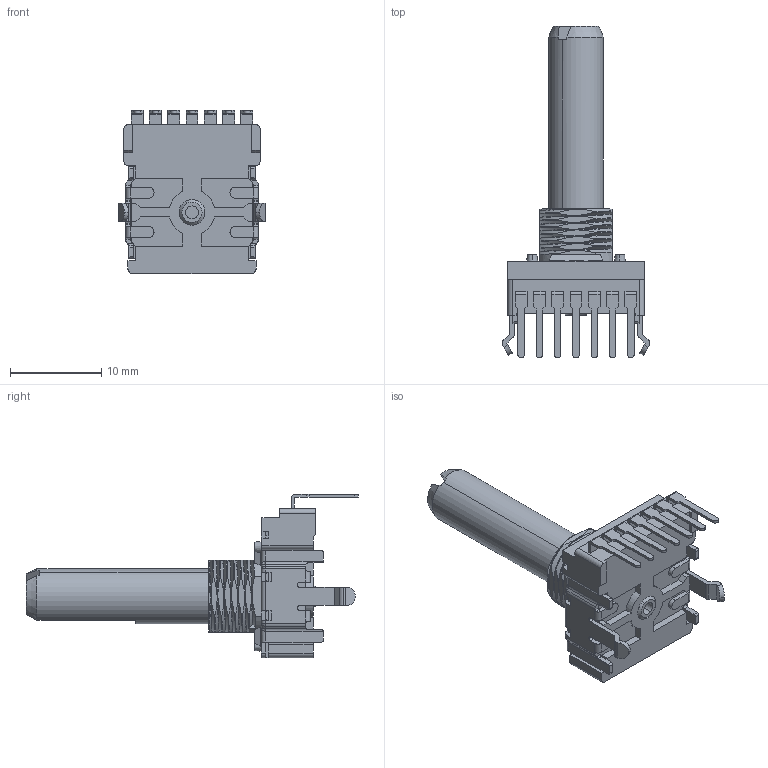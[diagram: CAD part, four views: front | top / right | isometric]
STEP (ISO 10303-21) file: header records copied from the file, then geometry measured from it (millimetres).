
FILE_DESCRIPTION (( 'STEP AP203' ), '1' );
FILE_NAME ('P140KH1-F25.STEP', '2026-09-15T18:39:35', ( '' ), ( '' ), 'SwSTEP 2.0', 'SolidWorks 2026', '' );
FILE_SCHEMA (( 'CONFIG_CONTROL_DESIGN' ));
Length unit declared in the file: millimetre
Products named in the file (8): 1-F25; V-terminal; bushing; Housing; spring_plate; P140KH1-F25; KH-housing; KH1 bracket
Assembly tree (13 placements, depth 3):
  P140KH1-F25
    KH-housing
      Housing
      V-terminal  x7
    1-F25
    spring_plate
    bushing
    KH1 bracket
Bounding box: 16.1 x 36.3 x 17.85 mm (x, y, z)
Volume: 1779.5 mm3; surface area: 3212.7 mm2
Topology: 12 solids, 12 shells, 774 faces, 2142 edges, 1384 vertices
Faces by surface type: plane 458, cylinder 228, bspline 65, cone 17, sphere 4, torus 2
Entity records: 36444 total; most frequent: CARTESIAN_POINT 18412, ORIENTED_EDGE 3836, DIRECTION 3227, EDGE_CURVE 1918, VERTEX_POINT 1240, VECTOR 1197, LINE 1197, AXIS2_PLACEMENT_3D 1015
